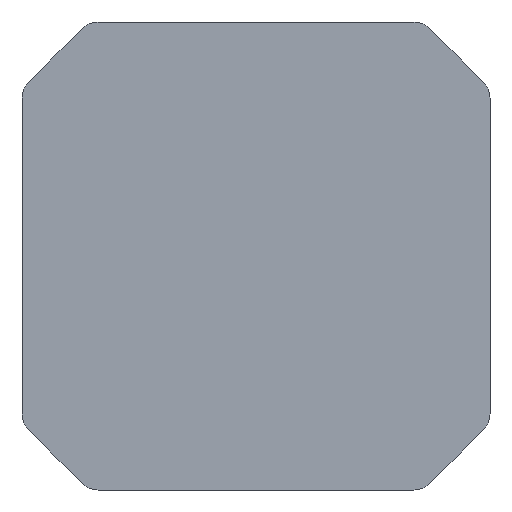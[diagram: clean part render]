
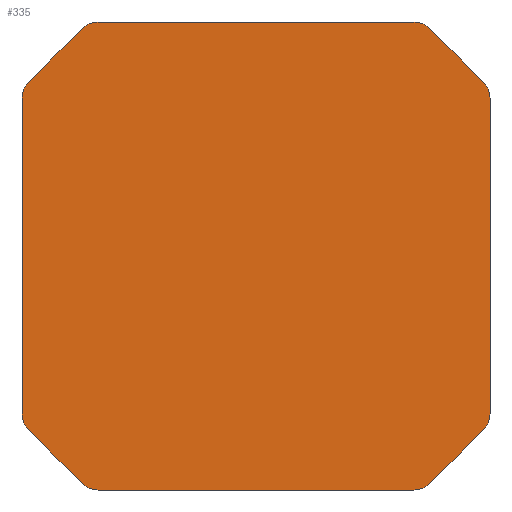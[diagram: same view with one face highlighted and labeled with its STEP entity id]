
A CAD part, front view. The second image highlights one B-rep face of the part: STEP entity #335.
In plain terms, the highlighted planar face has unit normal (0, -1, 0).
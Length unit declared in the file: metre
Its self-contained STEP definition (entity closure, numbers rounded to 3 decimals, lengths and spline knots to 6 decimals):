
#17=PLANE('',#382);
#39=LINE('',#564,#71);
#41=LINE('',#567,#73);
#42=LINE('',#569,#74);
#45=LINE('',#573,#77);
#50=LINE('',#580,#82);
#51=LINE('',#581,#83);
#52=LINE('',#582,#84);
#53=LINE('',#583,#85);
#71=VECTOR('',#456,1.);
#73=VECTOR('',#460,1.);
#74=VECTOR('',#463,1.);
#77=VECTOR('',#468,1.);
#82=VECTOR('',#477,1.);
#83=VECTOR('',#478,1.);
#84=VECTOR('',#479,1.);
#85=VECTOR('',#480,1.);
#150=ORIENTED_EDGE('',*,*,#217,.T.);
#151=ORIENTED_EDGE('',*,*,#210,.T.);
#152=ORIENTED_EDGE('',*,*,#226,.T.);
#153=ORIENTED_EDGE('',*,*,#188,.T.);
#154=ORIENTED_EDGE('',*,*,#218,.T.);
#155=ORIENTED_EDGE('',*,*,#182,.T.);
#156=ORIENTED_EDGE('',*,*,#227,.T.);
#157=ORIENTED_EDGE('',*,*,#192,.T.);
#158=ORIENTED_EDGE('',*,*,#221,.T.);
#159=ORIENTED_EDGE('',*,*,#194,.T.);
#160=ORIENTED_EDGE('',*,*,#228,.T.);
#161=ORIENTED_EDGE('',*,*,#200,.T.);
#162=ORIENTED_EDGE('',*,*,#215,.T.);
#163=ORIENTED_EDGE('',*,*,#202,.T.);
#164=ORIENTED_EDGE('',*,*,#229,.T.);
#165=ORIENTED_EDGE('',*,*,#208,.T.);
#182=EDGE_CURVE('',#230,#231,#262,.T.);
#188=EDGE_CURVE('',#237,#236,#265,.T.);
#192=EDGE_CURVE('',#241,#240,#267,.T.);
#194=EDGE_CURVE('',#242,#243,#268,.T.);
#200=EDGE_CURVE('',#249,#248,#271,.T.);
#202=EDGE_CURVE('',#250,#251,#272,.T.);
#208=EDGE_CURVE('',#257,#256,#275,.T.);
#210=EDGE_CURVE('',#258,#259,#276,.T.);
#215=EDGE_CURVE('',#248,#250,#39,.T.);
#217=EDGE_CURVE('',#256,#258,#41,.T.);
#218=EDGE_CURVE('',#236,#230,#42,.T.);
#221=EDGE_CURVE('',#240,#242,#45,.T.);
#226=EDGE_CURVE('',#259,#237,#50,.T.);
#227=EDGE_CURVE('',#231,#241,#51,.T.);
#228=EDGE_CURVE('',#243,#249,#52,.T.);
#229=EDGE_CURVE('',#251,#257,#53,.T.);
#230=VERTEX_POINT('',#492);
#231=VERTEX_POINT('',#493);
#236=VERTEX_POINT('',#504);
#237=VERTEX_POINT('',#506);
#240=VERTEX_POINT('',#513);
#241=VERTEX_POINT('',#515);
#242=VERTEX_POINT('',#519);
#243=VERTEX_POINT('',#520);
#248=VERTEX_POINT('',#531);
#249=VERTEX_POINT('',#533);
#250=VERTEX_POINT('',#537);
#251=VERTEX_POINT('',#538);
#256=VERTEX_POINT('',#549);
#257=VERTEX_POINT('',#551);
#258=VERTEX_POINT('',#555);
#259=VERTEX_POINT('',#556);
#262=CIRCLE('',#354,0.002);
#265=CIRCLE('',#358,0.002);
#267=CIRCLE('',#361,0.002);
#268=CIRCLE('',#363,0.002);
#271=CIRCLE('',#367,0.002);
#272=CIRCLE('',#369,0.002);
#275=CIRCLE('',#373,0.002);
#276=CIRCLE('',#375,0.002);
#291=EDGE_LOOP('',(#150,#151,#152,#153,#154,#155,#156,#157,#158,#159,#160,
#161,#162,#163,#164,#165));
#309=FACE_BOUND('',#291,.T.);
#335=ADVANCED_FACE('',(#309),#17,.T.);
#354=AXIS2_PLACEMENT_3D('',#491,#391,#392);
#358=AXIS2_PLACEMENT_3D('',#505,#402,#403);
#361=AXIS2_PLACEMENT_3D('',#514,#410,#411);
#363=AXIS2_PLACEMENT_3D('',#518,#415,#416);
#367=AXIS2_PLACEMENT_3D('',#532,#426,#427);
#369=AXIS2_PLACEMENT_3D('',#536,#431,#432);
#373=AXIS2_PLACEMENT_3D('',#550,#442,#443);
#375=AXIS2_PLACEMENT_3D('',#554,#447,#448);
#382=AXIS2_PLACEMENT_3D('',#579,#475,#476);
#391=DIRECTION('',(0.,-1.,0.));
#392=DIRECTION('',(0.,0.,-1.));
#402=DIRECTION('',(0.,-1.,0.));
#403=DIRECTION('',(0.,0.,-1.));
#410=DIRECTION('',(0.,-1.,0.));
#411=DIRECTION('',(0.,0.,-1.));
#415=DIRECTION('',(0.,-1.,0.));
#416=DIRECTION('',(0.,0.,-1.));
#426=DIRECTION('',(0.,-1.,0.));
#427=DIRECTION('',(0.,0.,-1.));
#431=DIRECTION('',(0.,-1.,0.));
#432=DIRECTION('',(0.,0.,-1.));
#442=DIRECTION('',(0.,-1.,0.));
#443=DIRECTION('',(0.,0.,-1.));
#447=DIRECTION('',(0.,-1.,0.));
#448=DIRECTION('',(0.,0.,-1.));
#456=DIRECTION('',(-0.707,0.,-0.707));
#460=DIRECTION('',(0.707,0.,-0.707));
#463=DIRECTION('',(0.707,0.,0.707));
#468=DIRECTION('',(-0.707,0.,0.707));
#475=DIRECTION('',(0.,-1.,0.));
#476=DIRECTION('',(0.,0.,-1.));
#477=DIRECTION('',(1.,0.,0.));
#478=DIRECTION('',(0.,0.,1.));
#479=DIRECTION('',(-1.,0.,0.));
#480=DIRECTION('',(0.,0.,-1.));
#491=CARTESIAN_POINT('',(0.019,-0.0233,-0.014172));
#492=CARTESIAN_POINT('',(0.020414,-0.0233,-0.015586));
#493=CARTESIAN_POINT('',(0.021,-0.0233,-0.014172));
#504=CARTESIAN_POINT('',(0.015586,-0.0233,-0.020414));
#505=CARTESIAN_POINT('',(0.014172,-0.0233,-0.019));
#506=CARTESIAN_POINT('',(0.014172,-0.0233,-0.021));
#513=CARTESIAN_POINT('',(0.020414,-0.0233,0.015586));
#514=CARTESIAN_POINT('',(0.019,-0.0233,0.014172));
#515=CARTESIAN_POINT('',(0.021,-0.0233,0.014172));
#518=CARTESIAN_POINT('',(0.014172,-0.0233,0.019));
#519=CARTESIAN_POINT('',(0.015586,-0.0233,0.020414));
#520=CARTESIAN_POINT('',(0.014172,-0.0233,0.021));
#531=CARTESIAN_POINT('',(-0.015586,-0.0233,0.020414));
#532=CARTESIAN_POINT('',(-0.014172,-0.0233,0.019));
#533=CARTESIAN_POINT('',(-0.014172,-0.0233,0.021));
#536=CARTESIAN_POINT('',(-0.019,-0.0233,0.014172));
#537=CARTESIAN_POINT('',(-0.020414,-0.0233,0.015586));
#538=CARTESIAN_POINT('',(-0.021,-0.0233,0.014172));
#549=CARTESIAN_POINT('',(-0.020414,-0.0233,-0.015586));
#550=CARTESIAN_POINT('',(-0.019,-0.0233,-0.014172));
#551=CARTESIAN_POINT('',(-0.021,-0.0233,-0.014172));
#554=CARTESIAN_POINT('',(-0.014172,-0.0233,-0.019));
#555=CARTESIAN_POINT('',(-0.015586,-0.0233,-0.020414));
#556=CARTESIAN_POINT('',(-0.014172,-0.0233,-0.021));
#564=CARTESIAN_POINT('',(-0.018,-0.0233,0.018));
#567=CARTESIAN_POINT('',(-0.018,-0.0233,-0.018));
#569=CARTESIAN_POINT('',(0.018,-0.0233,-0.018));
#573=CARTESIAN_POINT('',(0.018,-0.0233,0.018));
#579=CARTESIAN_POINT('',(0.,-0.0233,0.));
#580=CARTESIAN_POINT('',(-0.021,-0.0233,-0.021));
#581=CARTESIAN_POINT('',(0.021,-0.0233,0.021));
#582=CARTESIAN_POINT('',(-0.021,-0.0233,0.021));
#583=CARTESIAN_POINT('',(-0.021,-0.0233,0.021));
